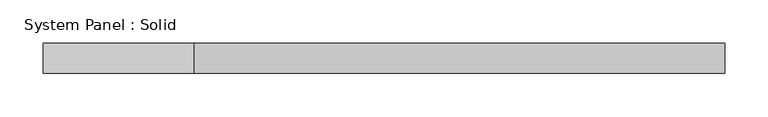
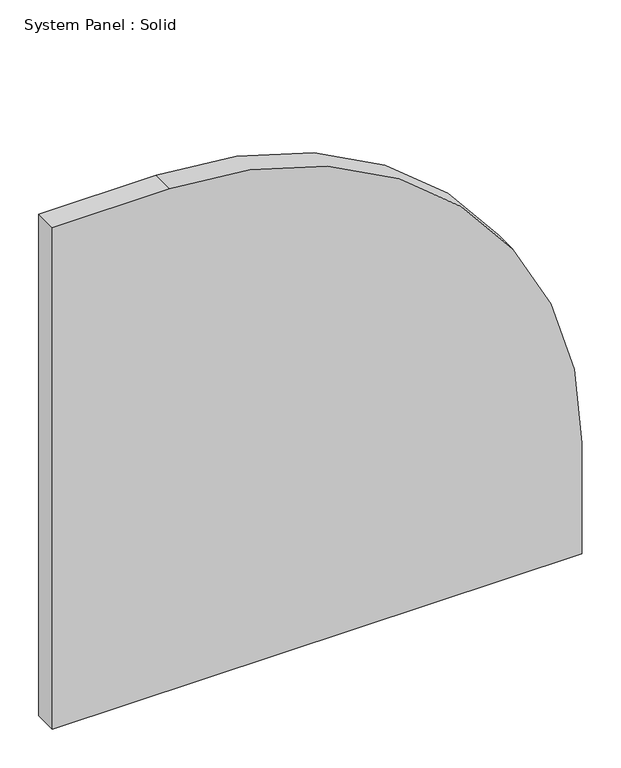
"""IFC4 building model written with IfcOpenShell, lengths in millimetres: plate geometry, System Panel : Solid."""

from ifc_helpers import new_model, si_unit, point, frame, frame_2d, origin, place, context, project, spatial, polyline, circle_curve, trimmed, segment, composite_curve, outline, extrude, source, transform, mapped, element, save


def system_panel_solid_4c08e40c(model_context):
    return source(origin(), model_context, "Body", "SweptSolid", [
        extrude(outline(composite_curve([segment(polyline([(0.0, -394.9999998), (0.0, 394.9999998), (175.0, 394.9999998)]), True, "CONTINUOUS"), segment(trimmed(circle_curve(frame_2d((175.0, -220.0000002)), 615.0), [point((175.0, 394.9999998))], [point((790.0, -220.0000002))], False, "CARTESIAN"), True, "CONTINUOUS"), segment(polyline([(790.0, -220.0000002), (790.0, -394.9999998), (0.0, -394.9999998)]), True, "CONTINUOUS")], self_intersect=False)), frame((0.0, -2.5, 0.0), z_axis=(0.0, 1.0, 0.0), x_axis=(0.0, 0.0, 1.0)), (0.0, 0.0, 1.0), 35.0),
    ])


if __name__ == "__main__":
    model = new_model("IFC4")
    model_context = context("Model", 3, world=origin())
    ifc_project = project(units=[si_unit("LENGTHUNIT", "METRE", prefix="MILLI")], contexts=[model_context])
    site = spatial("IfcSite", under=ifc_project)
    building = spatial("IfcBuilding", under=site)
    placement = place(None, origin())
    system_panel_solid_shape = system_panel_solid_4c08e40c(model_context)
    element("IfcPlate", 1, ObjectType="System Panel : Solid", at=placement, inside=building, context=model_context, shape_type="MappedRepresentation", body=[
        mapped(system_panel_solid_shape, transform((0.0, 0.0, 0.0), x_axis=(1.0, 0.0, 0.0), y_axis=(0.0, 1.0, 0.0), z_axis=(0.0, 0.0, 1.0))),
    ])
    save(model, "model.ifc")
